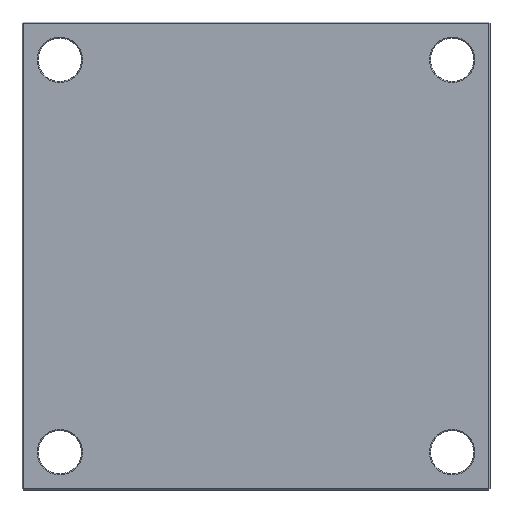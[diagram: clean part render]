
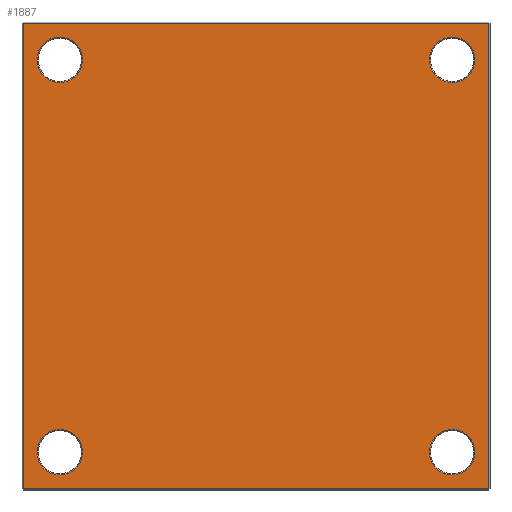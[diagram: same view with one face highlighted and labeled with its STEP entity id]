
A CAD part, front view. The second image highlights one B-rep face of the part: STEP entity #1887.
In plain terms, the highlighted planar face has unit normal (0, -1, 0).
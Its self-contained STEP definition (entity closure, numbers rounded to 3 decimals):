
#57 = VERTEX_POINT ( 'NONE', #374 ) ;
#65 = ORIENTED_EDGE ( 'NONE', *, *, #411, .T. ) ;
#80 = EDGE_CURVE ( 'NONE', #57, #263, #172, .T. ) ;
#162 = ORIENTED_EDGE ( 'NONE', *, *, #264, .T. ) ;
#166 = CARTESIAN_POINT ( 'NONE',  ( 0., 0., -222. ) ) ;
#172 = CIRCLE ( 'NONE', #1941, 21.65 ) ;
#174 = VERTEX_POINT ( 'NONE', #1034 ) ;
#175 = EDGE_LOOP ( 'NONE', ( #1660, #539 ) ) ;
#182 = VECTOR ( 'NONE', #979, 1000. ) ;
#187 = CARTESIAN_POINT ( 'NONE',  ( -187., 0., 187. ) ) ;
#196 = EDGE_CURVE ( 'NONE', #440, #1149, #1821, .T. ) ;
#203 = EDGE_CURVE ( 'NONE', #1253, #2143, #565, .T. ) ;
#224 = ORIENTED_EDGE ( 'NONE', *, *, #1947, .T. ) ;
#231 = EDGE_CURVE ( 'NONE', #2143, #878, #1156, .T. ) ;
#244 = EDGE_CURVE ( 'NONE', #1760, #1222, #356, .T. ) ;
#247 = EDGE_CURVE ( 'NONE', #263, #57, #2065, .T. ) ;
#263 = VERTEX_POINT ( 'NONE', #1838 ) ;
#264 = EDGE_CURVE ( 'NONE', #1285, #174, #1672, .T. ) ;
#273 = DIRECTION ( 'NONE',  ( 0., 0., 1. ) ) ;
#290 = CARTESIAN_POINT ( 'NONE',  ( 222., 0., -222. ) ) ;
#291 = EDGE_LOOP ( 'NONE', ( #65, #162 ) ) ;
#356 = CIRCLE ( 'NONE', #1819, 21.65 ) ;
#374 = CARTESIAN_POINT ( 'NONE',  ( 187., 0., 165.35 ) ) ;
#391 = DIRECTION ( 'NONE',  ( 0., 1., 0. ) ) ;
#411 = EDGE_CURVE ( 'NONE', #174, #1285, #741, .T. ) ;
#416 = ORIENTED_EDGE ( 'NONE', *, *, #196, .T. ) ;
#427 = CARTESIAN_POINT ( 'NONE',  ( 222., 0., 222. ) ) ;
#432 = EDGE_CURVE ( 'NONE', #1390, #1253, #618, .T. ) ;
#440 = VERTEX_POINT ( 'NONE', #1848 ) ;
#464 = EDGE_CURVE ( 'NONE', #1222, #1760, #898, .T. ) ;
#488 = DIRECTION ( 'NONE',  ( 0., 1., 0. ) ) ;
#506 = CARTESIAN_POINT ( 'NONE',  ( 187., 0., 187. ) ) ;
#523 = VECTOR ( 'NONE', #900, 1000. ) ;
#539 = ORIENTED_EDGE ( 'NONE', *, *, #247, .T. ) ;
#565 = LINE ( 'NONE', #166, #523 ) ;
#618 = LINE ( 'NONE', #1170, #182 ) ;
#625 = DIRECTION ( 'NONE',  ( 0., 0., 1. ) ) ;
#641 = DIRECTION ( 'NONE',  ( 0., 0., 1. ) ) ;
#669 = ORIENTED_EDGE ( 'NONE', *, *, #464, .T. ) ;
#688 = ORIENTED_EDGE ( 'NONE', *, *, #244, .T. ) ;
#707 = ORIENTED_EDGE ( 'NONE', *, *, #2091, .T. ) ;
#711 = DIRECTION ( 'NONE',  ( 0., 1., 0. ) ) ;
#728 = VECTOR ( 'NONE', #273, 1000. ) ;
#730 = ORIENTED_EDGE ( 'NONE', *, *, #203, .T. ) ;
#741 = CIRCLE ( 'NONE', #1740, 21.65 ) ;
#742 = DIRECTION ( 'NONE',  ( 0., 1., 0. ) ) ;
#752 = ORIENTED_EDGE ( 'NONE', *, *, #432, .T. ) ;
#848 = VECTOR ( 'NONE', #1561, 1000. ) ;
#878 = VERTEX_POINT ( 'NONE', #427 ) ;
#880 = PLANE ( 'NONE',  #1146 ) ;
#884 = DIRECTION ( 'NONE',  ( 0., 0., 1. ) ) ;
#898 = CIRCLE ( 'NONE', #1721, 21.65 ) ;
#900 = DIRECTION ( 'NONE',  ( 1., 0., 0. ) ) ;
#925 = CARTESIAN_POINT ( 'NONE',  ( 0., 0., 0. ) ) ;
#979 = DIRECTION ( 'NONE',  ( 0., 0., -1. ) ) ;
#1020 = CARTESIAN_POINT ( 'NONE',  ( -187., 0., 165.35 ) ) ;
#1034 = CARTESIAN_POINT ( 'NONE',  ( -187., 0., -208.65 ) ) ;
#1043 = ORIENTED_EDGE ( 'NONE', *, *, #231, .T. ) ;
#1056 = CARTESIAN_POINT ( 'NONE',  ( 222., 0., 0. ) ) ;
#1066 = AXIS2_PLACEMENT_3D ( 'NONE', #1953, #1990, #2095 ) ;
#1087 = CARTESIAN_POINT ( 'NONE',  ( 187., 0., 187. ) ) ;
#1116 = DIRECTION ( 'NONE',  ( 0., 1., 0. ) ) ;
#1124 = DIRECTION ( 'NONE',  ( 0., 0., 1. ) ) ;
#1134 = FACE_BOUND ( 'NONE', #175, .T. ) ;
#1146 = AXIS2_PLACEMENT_3D ( 'NONE', #925, #742, #884 ) ;
#1149 = VERTEX_POINT ( 'NONE', #1166 ) ;
#1156 = LINE ( 'NONE', #1056, #728 ) ;
#1166 = CARTESIAN_POINT ( 'NONE',  ( 187., 0., -208.65 ) ) ;
#1170 = CARTESIAN_POINT ( 'NONE',  ( -222., 0., 0. ) ) ;
#1222 = VERTEX_POINT ( 'NONE', #1020 ) ;
#1253 = VERTEX_POINT ( 'NONE', #2071 ) ;
#1285 = VERTEX_POINT ( 'NONE', #2053 ) ;
#1304 = EDGE_LOOP ( 'NONE', ( #224, #416 ) ) ;
#1309 = LINE ( 'NONE', #2048, #848 ) ;
#1348 = CARTESIAN_POINT ( 'NONE',  ( -187., 0., -187. ) ) ;
#1355 = DIRECTION ( 'NONE',  ( 0., 1., 0. ) ) ;
#1390 = VERTEX_POINT ( 'NONE', #1544 ) ;
#1429 = DIRECTION ( 'NONE',  ( 0., 0., 1. ) ) ;
#1466 = DIRECTION ( 'NONE',  ( 0., 0., 1. ) ) ;
#1488 = FACE_BOUND ( 'NONE', #2125, .T. ) ;
#1544 = CARTESIAN_POINT ( 'NONE',  ( -222., 0., 222. ) ) ;
#1561 = DIRECTION ( 'NONE',  ( -1., 0., 0. ) ) ;
#1587 = FACE_BOUND ( 'NONE', #291, .T. ) ;
#1657 = FACE_OUTER_BOUND ( 'NONE', #1780, .T. ) ;
#1660 = ORIENTED_EDGE ( 'NONE', *, *, #80, .T. ) ;
#1672 = CIRCLE ( 'NONE', #1804, 21.65 ) ;
#1678 = DIRECTION ( 'NONE',  ( 0., 1., 0. ) ) ;
#1682 = CARTESIAN_POINT ( 'NONE',  ( -187., 0., 208.65 ) ) ;
#1698 = CARTESIAN_POINT ( 'NONE',  ( -187., 0., 187. ) ) ;
#1721 = AXIS2_PLACEMENT_3D ( 'NONE', #1698, #1678, #1807 ) ;
#1740 = AXIS2_PLACEMENT_3D ( 'NONE', #1348, #1355, #1429 ) ;
#1760 = VERTEX_POINT ( 'NONE', #1682 ) ;
#1780 = EDGE_LOOP ( 'NONE', ( #1043, #707, #752, #730 ) ) ;
#1804 = AXIS2_PLACEMENT_3D ( 'NONE', #2021, #2031, #2147 ) ;
#1807 = DIRECTION ( 'NONE',  ( 0., 0., 1. ) ) ;
#1817 = AXIS2_PLACEMENT_3D ( 'NONE', #506, #391, #1466 ) ;
#1819 = AXIS2_PLACEMENT_3D ( 'NONE', #187, #488, #641 ) ;
#1821 = CIRCLE ( 'NONE', #1881, 21.65 ) ;
#1838 = CARTESIAN_POINT ( 'NONE',  ( 187., 0., 208.65 ) ) ;
#1848 = CARTESIAN_POINT ( 'NONE',  ( 187., 0., -165.35 ) ) ;
#1881 = AXIS2_PLACEMENT_3D ( 'NONE', #2014, #711, #625 ) ;
#1887 = ADVANCED_FACE ( 'NONE', ( #1587, #1994, #1134, #1488, #1657 ), #880, .F. ) ;
#1941 = AXIS2_PLACEMENT_3D ( 'NONE', #1087, #1116, #1124 ) ;
#1947 = EDGE_CURVE ( 'NONE', #1149, #440, #2150, .T. ) ;
#1953 = CARTESIAN_POINT ( 'NONE',  ( 187., 0., -187. ) ) ;
#1990 = DIRECTION ( 'NONE',  ( 0., 1., 0. ) ) ;
#1994 = FACE_BOUND ( 'NONE', #1304, .T. ) ;
#2014 = CARTESIAN_POINT ( 'NONE',  ( 187., 0., -187. ) ) ;
#2021 = CARTESIAN_POINT ( 'NONE',  ( -187., 0., -187. ) ) ;
#2031 = DIRECTION ( 'NONE',  ( 0., 1., 0. ) ) ;
#2048 = CARTESIAN_POINT ( 'NONE',  ( 0., 0., 222. ) ) ;
#2053 = CARTESIAN_POINT ( 'NONE',  ( -187., 0., -165.35 ) ) ;
#2065 = CIRCLE ( 'NONE', #1817, 21.65 ) ;
#2071 = CARTESIAN_POINT ( 'NONE',  ( -222., 0., -222. ) ) ;
#2091 = EDGE_CURVE ( 'NONE', #878, #1390, #1309, .T. ) ;
#2095 = DIRECTION ( 'NONE',  ( 0., 0., 1. ) ) ;
#2125 = EDGE_LOOP ( 'NONE', ( #669, #688 ) ) ;
#2143 = VERTEX_POINT ( 'NONE', #290 ) ;
#2147 = DIRECTION ( 'NONE',  ( 0., 0., 1. ) ) ;
#2150 = CIRCLE ( 'NONE', #1066, 21.65 ) ;
